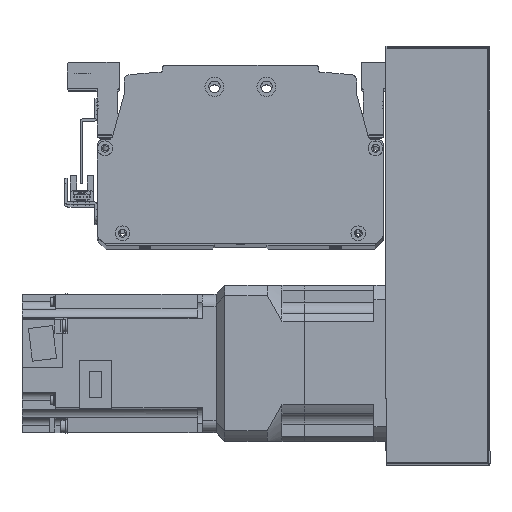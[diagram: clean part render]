
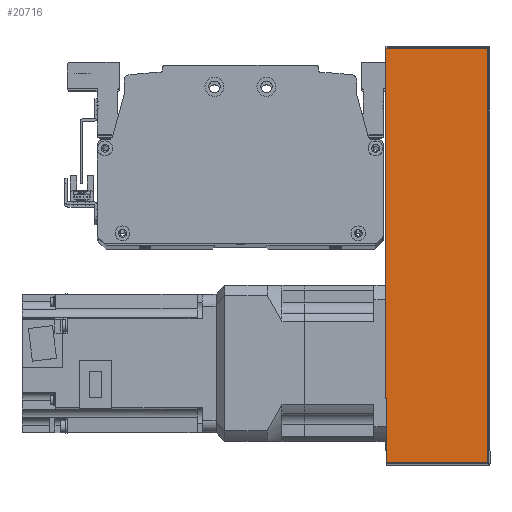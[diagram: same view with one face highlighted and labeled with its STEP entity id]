
A CAD part, top view. The second image highlights one B-rep face of the part: STEP entity #20716.
In plain terms, the highlighted planar face has unit normal (0, 0, 1) as drawn and (0, 1, 0) by its records, which use the part's own axes.
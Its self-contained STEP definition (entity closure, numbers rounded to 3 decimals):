
#556=PLANE('',#22576);
#1687=LINE('',#32933,#3347);
#1706=LINE('',#33017,#3366);
#1708=LINE('',#33027,#3368);
#1709=LINE('',#33029,#3369);
#3347=VECTOR('',#26786,10.);
#3366=VECTOR('',#26899,10.);
#3368=VECTOR('',#26913,10.);
#3369=VECTOR('',#26916,10.);
#5361=FACE_OUTER_BOUND('',#6797,.T.);
#6797=EDGE_LOOP('',(#16258,#16259,#16260,#16261));
#9669=VERTEX_POINT('',#32930);
#9670=VERTEX_POINT('',#32932);
#9687=VERTEX_POINT('',#33011);
#9690=VERTEX_POINT('',#33023);
#12029=EDGE_CURVE('',#9670,#9669,#1687,.T.);
#12072=EDGE_CURVE('',#9687,#9670,#1706,.T.);
#12077=EDGE_CURVE('',#9669,#9690,#1708,.T.);
#12078=EDGE_CURVE('',#9690,#9687,#1709,.T.);
#16258=ORIENTED_EDGE('',*,*,#12072,.T.);
#16259=ORIENTED_EDGE('',*,*,#12029,.T.);
#16260=ORIENTED_EDGE('',*,*,#12077,.T.);
#16261=ORIENTED_EDGE('',*,*,#12078,.T.);
#20716=ADVANCED_FACE('',(#5361),#556,.F.);
#22576=AXIS2_PLACEMENT_3D('',#33036,#26925,#26926);
#26786=DIRECTION('',(-1.,0.,0.));
#26899=DIRECTION('',(0.,0.,-1.));
#26913=DIRECTION('',(0.,0.,1.));
#26916=DIRECTION('',(1.,0.,0.));
#26925=DIRECTION('center_axis',(0.,-1.,0.));
#26926=DIRECTION('ref_axis',(-1.,0.,0.));
#32930=CARTESIAN_POINT('',(-120.,51.,-30.));
#32932=CARTESIAN_POINT('',(120.,51.,-30.));
#32933=CARTESIAN_POINT('',(-121.,51.,-30.));
#33011=CARTESIAN_POINT('',(120.,51.,29.));
#33017=CARTESIAN_POINT('',(120.,51.,0.));
#33023=CARTESIAN_POINT('',(-120.,51.,29.));
#33027=CARTESIAN_POINT('',(-120.,51.,0.));
#33029=CARTESIAN_POINT('',(60.5,51.,29.));
#33036=CARTESIAN_POINT('Origin',(121.,51.,0.));
